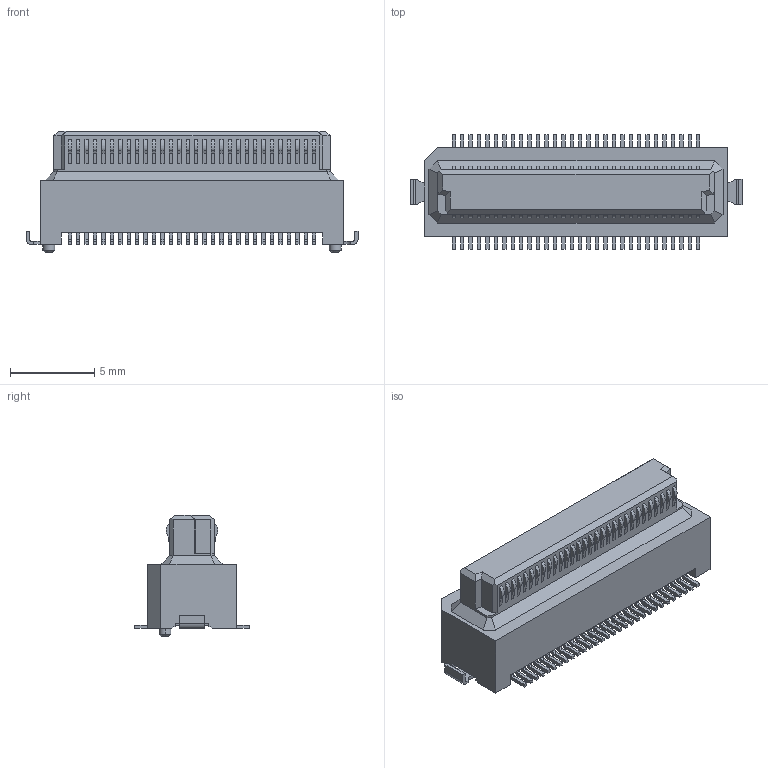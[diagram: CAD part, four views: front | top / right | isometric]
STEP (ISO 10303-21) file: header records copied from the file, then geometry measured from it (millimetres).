
FILE_DESCRIPTION(('Creo Elements/Direct Modeling STEP Export'),'2;1');
FILE_NAME('P39894_DY11-060S-4.stp','2022-02-25T14:13:58',(''),(''),'Creo Elements/Direct Modeling STEP processor for AP214 (Solid Model)','Creo Elements/Direct Modeling 20.4A 18-Oct-2021 (C) Parametric Technology GmbH','');
FILE_SCHEMA(('AUTOMOTIVE_DESIGN { 1 0 10303 214 1 1 1 1 }'));
Length unit declared in the file: millimetre
Products named in the file (2): P39894_DY11-060S-4
Assembly tree (1 placements, depth 2):
  P39894_DY11-060S-4
    P39894_DY11-060S-4
Bounding box: 19.7 x 6.8 x 7.23 mm (x, y, z)
Volume: 398.3 mm3; surface area: 588.4 mm2
Topology: 1 solids, 1 shells, 956 faces, 2463 edges, 1634 vertices
Faces by surface type: plane 756, cylinder 196, cone 4
Entity records: 28492 total; most frequent: CARTESIAN_POINT 4981, ORIENTED_EDGE 4926, DIRECTION 4633, EDGE_CURVE 2463, VECTOR 2061, LINE 2061, VERTEX_POINT 1634, AXIS2_PLACEMENT_3D 1286
